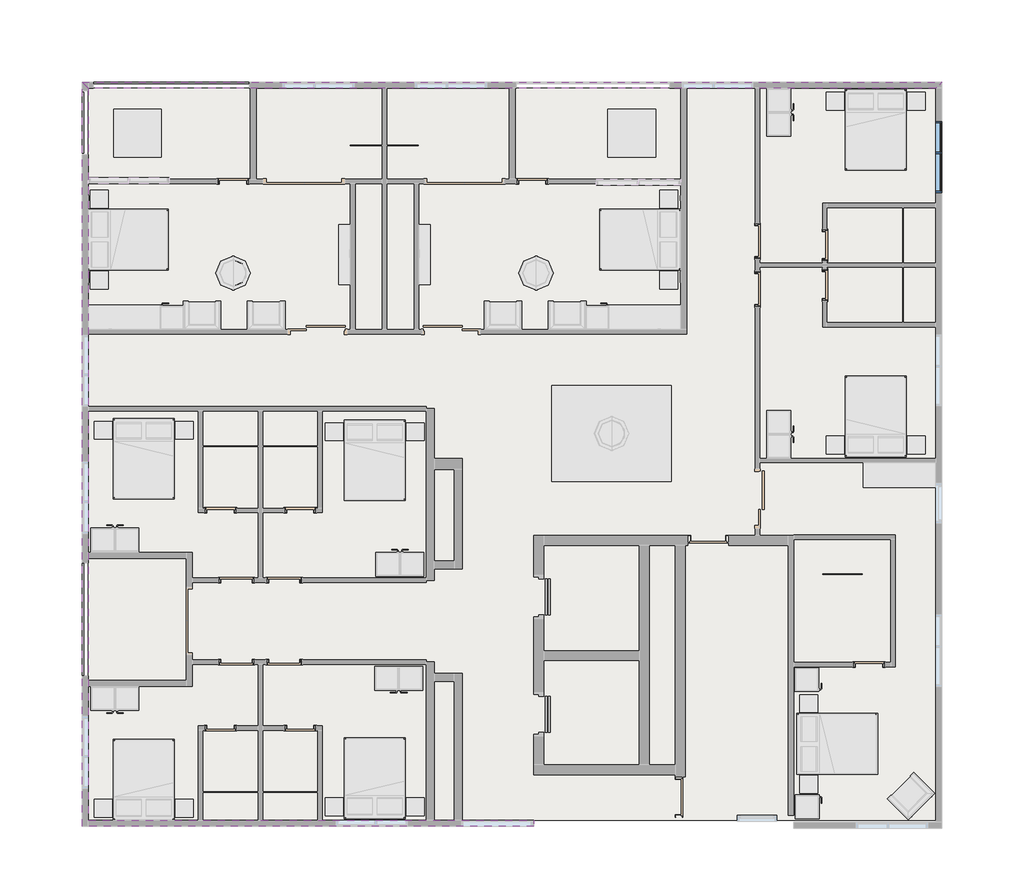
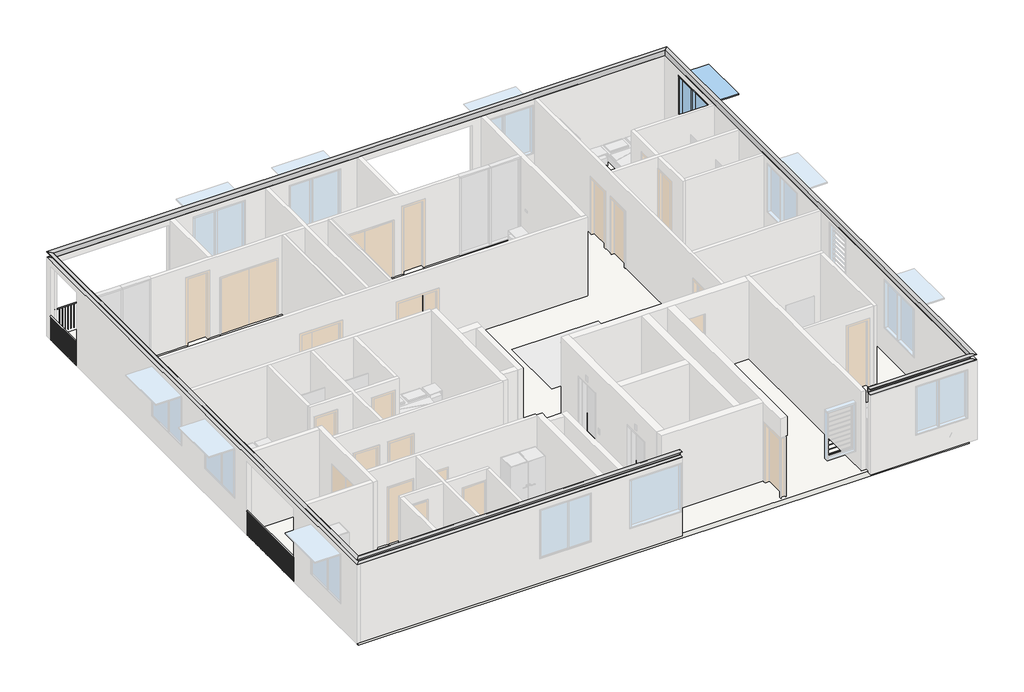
# One storey, part 3 of 4: 3 railings, 2 proxies, 1 slab, 1 window.
"""IFC4 building model written with IfcOpenShell, lengths in millimetres."""

from ifc_helpers import new_model, si_unit, point, frame, frame_2d, origin, place, context, project, spatial, polyline, circle_curve, ellipse_curve, trimmed, segment, composite_curve, outline, extrude, faceted_brep, transform, mapped, element, save
from ifc_brep_helpers import plane_surface, revolved_surface, advanced_brep
from components import window_bottom_hung_window_bottom_hung_09912109

model = new_model("IFC4")

# Units and contexts
model_context = context("Model", 3, world=origin())
ifc_project = project(units=[si_unit("LENGTHUNIT", "METRE", prefix="MILLI")], contexts=[model_context])

# Site, building, storey
site = spatial("IfcSite", under=ifc_project)
building = spatial("IfcBuilding", under=site)
storey = spatial("IfcBuildingStorey", under=building, Name="7階", Elevation=48500.0)

# Proxies
placement = place(None, origin())
element("IfcBuildingElementProxy", 1, Name="Slab Edge_PFC'", ObjectType="Slab Edge_PFC'", at=placement, inside=storey, context=model_context, shape_type="AdvancedBrep", body=[
    advanced_brep(
    [(2519.6057353, 18560.0, 51600.0), (2519.6057353, 18560.0, 51400.0), (2369.6057353, 18710.0, 51400.0), (2369.6057353, 18710.0, 51412.0), (2501.6057353, 18578.0, 51412.0), (2513.6057353, 18566.0, 51424.0), (2513.6057353, 18566.0, 51576.0), (2501.6057353, 18578.0, 51588.0), (2369.6057353, 18710.0, 51588.0), (2369.6057353, 18710.0, 51600.0), (2519.6057353, 189.0898177, 51600.0), (2519.6057353, 189.0898177, 51400.0), (2369.6057353, 39.0898177, 51400.0), (2369.6057353, 39.0898177, 51412.0), (2501.6057353, 171.0898177, 51412.0), (2513.6057353, 183.0898177, 51424.0), (2513.6057353, 183.0898177, 51576.0), (2501.6057353, 171.0898177, 51588.0), (2369.6057353, 39.0898177, 51588.0), (2369.6057353, 39.0898177, 51600.0), (13694.6062665, 189.0898177, 51400.0), (13694.6062665, 189.0898177, 51600.0), (13694.6062665, 39.0898177, 51600.0), (13694.6062665, 39.0898177, 51588.0), (13694.6062665, 171.0898177, 51588.0), (13694.6062665, 183.0898177, 51576.0), (13694.6062665, 183.0898177, 51424.0), (13694.6062665, 171.0898177, 51412.0), (13694.6062665, 39.0898177, 51412.0), (13694.6062665, 39.0898177, 51400.0)],
    [
        (0, 1),
        (1, 2),
        (2, 3),
        (3, 4),
        (4, 5, ellipse_curve(frame((2501.6057353, 18578.0, 51424.0), z_axis=(-0.7071067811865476, -0.7071067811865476, 0.0), x_axis=(0.7071067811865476, -0.7071067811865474, 0.0)), 16.9705627, 12.0)),
        (5, 6),
        (6, 7, ellipse_curve(frame((2501.6057353, 18578.0, 51576.0), z_axis=(-0.7071067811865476, -0.7071067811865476, 0.0), x_axis=(0.7071067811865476, -0.7071067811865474, 0.0)), 16.9705627, 12.0)),
        (7, 8),
        (8, 9),
        (9, 0),
        (0, 10),
        (10, 11),
        (11, 1),
        (11, 12),
        (12, 2),
        (12, 13),
        (13, 3),
        (13, 14),
        (14, 4),
        (14, 15, ellipse_curve(frame((2501.6057353, 171.0898177, 51424.0), z_axis=(0.7071067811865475, -0.7071067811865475, 0.0), x_axis=(-0.7071067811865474, -0.7071067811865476, 0.0)), 16.9705627, 12.0)),
        (15, 5),
        (15, 16),
        (16, 6),
        (16, 17, ellipse_curve(frame((2501.6057353, 171.0898177, 51576.0), z_axis=(0.7071067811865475, -0.7071067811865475, 0.0), x_axis=(-0.7071067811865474, -0.7071067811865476, 0.0)), 16.9705627, 12.0)),
        (17, 7),
        (17, 18),
        (18, 8),
        (18, 19),
        (19, 9),
        (19, 10),
        (20, 21),
        (21, 22),
        (22, 23),
        (23, 24),
        (24, 25, circle_curve(frame((13694.6062665, 171.0898177, 51576.0), z_axis=(-1.0, 0.0, 0.0), x_axis=(0.0, -1.0, 0.0)), 12.0)),
        (25, 26),
        (26, 27, circle_curve(frame((13694.6062665, 171.0898177, 51424.0), z_axis=(-1.0, 0.0, 0.0), x_axis=(0.0, -1.0, 0.0)), 12.0)),
        (27, 28),
        (28, 29),
        (29, 20),
        (10, 21),
        (20, 11),
        (29, 12),
        (28, 13),
        (27, 14),
        (26, 15),
        (25, 16),
        (24, 17),
        (23, 18),
        (22, 19),
    ],
    [
        plane_surface(frame((2519.6057353, 18560.0, 51600.0), z_axis=(0.7071067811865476, 0.7071067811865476, 0.0), x_axis=(-0.7071067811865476, 0.7071067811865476, 0.0))),
        plane_surface(frame((2519.6057353, 18560.0, 51600.0), z_axis=(1.0, 0.0, 0.0), x_axis=(0.0, -1.0, 0.0))),
        plane_surface(frame((2519.6057353, 18560.0, 51400.0), z_axis=(0.0, 0.0, -1.0), x_axis=(0.0, -1.0, 0.0))),
        plane_surface(frame((2369.6057353, 18710.0, 51400.0), z_axis=(-1.0, 0.0, 0.0), x_axis=(0.0, -1.0, 0.0))),
        plane_surface(frame((2369.6057353, 18710.0, 51412.0), z_axis=(0.0, 0.0, 1.0), x_axis=(0.0, -1.0, 0.0))),
        revolved_surface(polyline([(2489.6057353, 159.08981773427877, 51424.0), (2489.6057353, 18589.999999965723, 51424.0)]), (2501.6057353, 18560.0, 51424.0), (0.0, -1.0, 0.0)),
        plane_surface(frame((2513.6057353, 18566.0, 51424.0), z_axis=(-1.0, 0.0, 0.0), x_axis=(0.0, -1.0, 0.0))),
        revolved_surface(polyline([(2489.6057353, 159.08981773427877, 51576.0), (2489.6057353, 18589.999999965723, 51576.0)]), (2501.6057353, 18560.0, 51576.0), (0.0, -1.0, 0.0)),
        plane_surface(frame((2501.6057353, 18578.0, 51588.0), z_axis=(0.0, 0.0, -1.0), x_axis=(0.0, -1.0, 0.0))),
        plane_surface(frame((2369.6057353, 18710.0, 51588.0), z_axis=(-1.0, 0.0, 0.0), x_axis=(0.0, -1.0, 0.0))),
        plane_surface(frame((2369.6057353, 18710.0, 51600.0), z_axis=(0.0, 0.0, 1.0), x_axis=(0.0, -1.0, 0.0))),
        plane_surface(frame((13694.6062665, 189.0898177, 51350.0), z_axis=(1.0, 0.0, 0.0), x_axis=(0.0, 1.0, 0.0))),
        plane_surface(frame((2519.6057353, 189.0898177, 51600.0), z_axis=(0.0, 1.0, 0.0), x_axis=(1.0, 0.0, 0.0))),
        plane_surface(frame((2519.6057353, 189.0898177, 51400.0), z_axis=(0.0, 0.0, -1.0), x_axis=(1.0, 0.0, 0.0))),
        plane_surface(frame((2369.6057353, 39.0898177, 51400.0), z_axis=(0.0, -1.0, 0.0), x_axis=(1.0, 0.0, 0.0))),
        plane_surface(frame((2369.6057353, 39.0898177, 51412.0), z_axis=(0.0, 0.0, 1.0), x_axis=(1.0, 0.0, 0.0))),
        revolved_surface(polyline([(13694.6062665, 159.0898177, 51424.0), (2489.6057353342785, 159.0898177, 51424.0)]), (2519.6057353, 171.0898177, 51424.0), (1.0, 0.0, 0.0)),
        plane_surface(frame((2513.6057353, 183.0898177, 51424.0), z_axis=(0.0, -1.0, 0.0), x_axis=(1.0, 0.0, 0.0))),
        revolved_surface(polyline([(13694.6062665, 159.0898177, 51576.0), (2489.6057353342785, 159.0898177, 51576.0)]), (2519.6057353, 171.0898177, 51576.0), (1.0, 0.0, 0.0)),
        plane_surface(frame((2501.6057353, 171.0898177, 51588.0), z_axis=(0.0, 0.0, -1.0), x_axis=(1.0, 0.0, 0.0))),
        plane_surface(frame((2369.6057353, 39.0898177, 51588.0), z_axis=(0.0, -1.0, 0.0), x_axis=(1.0, 0.0, 0.0))),
        plane_surface(frame((2369.6057353, 39.0898177, 51600.0), z_axis=(0.0, 0.0, 1.0), x_axis=(1.0, 0.0, 0.0))),
    ],
    [
        (0, [[1, 2, 3, 4, 5, 6, 7, 8, 9, 10]]),
        (1, [[-1, 11, 12, 13]]),
        (2, [[-2, -13, 14, 15]]),
        (3, [[-3, -15, 16, 17]]),
        (4, [[-4, -17, 18, 19]]),
        (5, [[-5, -19, 20, 21]]),
        (6, [[-6, -21, 22, 23]]),
        (7, [[-7, -23, 24, 25]]),
        (8, [[-8, -25, 26, 27]]),
        (9, [[-9, -27, 28, 29]]),
        (10, [[-10, -29, 30, -11]]),
        (11, [[31, 32, 33, 34, 35, 36, 37, 38, 39, 40]]),
        (12, [[-12, 41, -31, 42]]),
        (13, [[-14, -42, -40, 43]]),
        (14, [[-16, -43, -39, 44]]),
        (15, [[-18, -44, -38, 45]]),
        (16, [[-20, -45, -37, 46]]),
        (17, [[-22, -46, -36, 47]]),
        (18, [[-24, -47, -35, 48]]),
        (19, [[-26, -48, -34, 49]]),
        (20, [[-28, -49, -33, 50]]),
        (21, [[-30, -50, -32, -41]]),
    ],
),
    advanced_brep(
    [(23783.6171203, 18560.0, 51400.0), (23783.6171203, 18560.0, 51600.0), (23933.6171203, 18710.0, 51600.0), (23933.6171203, 18710.0, 51588.0), (23801.6171203, 18578.0, 51588.0), (23789.6171203, 18566.0, 51576.0), (23789.6171203, 18566.0, 51424.0), (23801.6171203, 18578.0, 51412.0), (23933.6171203, 18710.0, 51412.0), (23933.6171203, 18710.0, 51400.0), (23783.6171203, 189.0898177, 51400.0), (23783.6171203, 189.0898177, 51600.0), (23933.6171203, 39.0898177, 51400.0), (23933.6171203, 39.0898177, 51412.0), (23801.6171203, 171.0898177, 51412.0), (23789.6171203, 183.0898177, 51424.0), (23789.6171203, 183.0898177, 51576.0), (23801.6171203, 171.0898177, 51588.0), (23933.6171203, 39.0898177, 51588.0), (23933.6171203, 39.0898177, 51600.0), (20219.6062665, 189.0898177, 51600.0), (20219.6062665, 189.0898177, 51400.0), (20219.6062665, 39.0898177, 51400.0), (20219.6062665, 39.0898177, 51412.0), (20219.6062665, 171.0898177, 51412.0), (20219.6062665, 183.0898177, 51424.0), (20219.6062665, 183.0898177, 51576.0), (20219.6062665, 171.0898177, 51588.0), (20219.6062665, 39.0898177, 51588.0), (20219.6062665, 39.0898177, 51600.0)],
    [
        (0, 1),
        (1, 2),
        (2, 3),
        (3, 4),
        (4, 5, ellipse_curve(frame((23801.6171203, 18578.0, 51576.0), z_axis=(0.7071067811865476, -0.7071067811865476, 0.0), x_axis=(0.7071067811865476, 0.7071067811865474, 0.0)), 16.9705627, 12.0)),
        (5, 6),
        (6, 7, ellipse_curve(frame((23801.6171203, 18578.0, 51424.0), z_axis=(0.7071067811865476, -0.7071067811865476, 0.0), x_axis=(0.7071067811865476, 0.7071067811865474, 0.0)), 16.9705627, 12.0)),
        (7, 8),
        (8, 9),
        (9, 0),
        (10, 11),
        (11, 1),
        (0, 10),
        (12, 10),
        (9, 12),
        (13, 12),
        (8, 13),
        (14, 13),
        (7, 14),
        (15, 14, ellipse_curve(frame((23801.6171203, 171.0898177, 51424.0), z_axis=(-0.7071067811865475, -0.7071067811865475, 0.0), x_axis=(-0.7071067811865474, 0.7071067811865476, 0.0)), 16.9705627, 12.0)),
        (6, 15),
        (16, 15),
        (5, 16),
        (17, 16, ellipse_curve(frame((23801.6171203, 171.0898177, 51576.0), z_axis=(-0.7071067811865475, -0.7071067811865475, 0.0), x_axis=(-0.7071067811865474, 0.7071067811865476, 0.0)), 16.9705627, 12.0)),
        (4, 17),
        (18, 17),
        (3, 18),
        (19, 18),
        (2, 19),
        (11, 19),
        (20, 21),
        (21, 22),
        (22, 23),
        (23, 24),
        (24, 25, circle_curve(frame((20219.6062665, 171.0898177, 51424.0), z_axis=(1.0, 0.0, 0.0), x_axis=(0.0, -1.0, 0.0)), 12.0)),
        (25, 26),
        (26, 27, circle_curve(frame((20219.6062665, 171.0898177, 51576.0), z_axis=(1.0, 0.0, 0.0), x_axis=(0.0, -1.0, 0.0)), 12.0)),
        (27, 28),
        (28, 29),
        (29, 20),
        (10, 21),
        (20, 11),
        (12, 22),
        (13, 23),
        (14, 24),
        (15, 25),
        (16, 26),
        (17, 27),
        (18, 28),
        (19, 29),
    ],
    [
        plane_surface(frame((23783.6171203, 18560.0, 51600.0), z_axis=(-0.7071067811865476, 0.7071067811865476, 0.0), x_axis=(-0.7071067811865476, -0.7071067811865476, 0.0))),
        plane_surface(frame((23783.6171203, 189.0898177, 51600.0), z_axis=(-1.0, 0.0, 0.0), x_axis=(0.0, 1.0, 0.0))),
        plane_surface(frame((23783.6171203, 189.0898177, 51400.0), z_axis=(0.0, 0.0, -1.0), x_axis=(0.0, 1.0, 0.0))),
        plane_surface(frame((23933.6171203, 39.0898177, 51400.0), z_axis=(1.0, 0.0, 0.0), x_axis=(0.0, 1.0, 0.0))),
        plane_surface(frame((23933.6171203, 39.0898177, 51412.0), z_axis=(0.0, 0.0, 1.0), x_axis=(0.0, 1.0, 0.0))),
        revolved_surface(polyline([(23813.6171203, 18589.999999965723, 51424.0), (23813.6171203, 159.0898177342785, 51424.0)]), (23801.6171203, 189.0898177, 51424.0), (0.0, 1.0, 0.0)),
        plane_surface(frame((23789.6171203, 183.0898177, 51424.0), z_axis=(1.0, 0.0, 0.0), x_axis=(0.0, 1.0, 0.0))),
        revolved_surface(polyline([(23813.6171203, 18589.999999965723, 51576.0), (23813.6171203, 159.0898177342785, 51576.0)]), (23801.6171203, 189.0898177, 51576.0), (0.0, 1.0, 0.0)),
        plane_surface(frame((23801.6171203, 171.0898177, 51588.0), z_axis=(0.0, 0.0, -1.0), x_axis=(0.0, 1.0, 0.0))),
        plane_surface(frame((23933.6171203, 39.0898177, 51588.0), z_axis=(1.0, 0.0, 0.0), x_axis=(0.0, 1.0, 0.0))),
        plane_surface(frame((23933.6171203, 39.0898177, 51600.0), z_axis=(0.0, 0.0, 1.0), x_axis=(0.0, 1.0, 0.0))),
        plane_surface(frame((20219.6062665, 189.0898177, 51350.0), z_axis=(-1.0, 0.0, 0.0), x_axis=(0.0, 1.0, 0.0))),
        plane_surface(frame((20219.6062665, 189.0898177, 51600.0), z_axis=(0.0, 1.0, 0.0), x_axis=(1.0, 0.0, 0.0))),
        plane_surface(frame((20219.6062665, 189.0898177, 51400.0), z_axis=(0.0, 0.0, -1.0), x_axis=(1.0, 0.0, 0.0))),
        plane_surface(frame((20219.6062665, 39.0898177, 51400.0), z_axis=(0.0, -1.0, 0.0), x_axis=(1.0, 0.0, 0.0))),
        plane_surface(frame((20219.6062665, 39.0898177, 51412.0), z_axis=(0.0, 0.0, 1.0), x_axis=(1.0, 0.0, 0.0))),
        revolved_surface(polyline([(23813.617120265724, 159.0898177, 51424.0), (20219.6062665, 159.0898177, 51424.0)]), (20219.6062665, 171.0898177, 51424.0), (1.0, 0.0, 0.0)),
        plane_surface(frame((20219.6062665, 183.0898177, 51424.0), z_axis=(0.0, -1.0, 0.0), x_axis=(1.0, 0.0, 0.0))),
        revolved_surface(polyline([(23813.617120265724, 159.0898177, 51576.0), (20219.6062665, 159.0898177, 51576.0)]), (20219.6062665, 171.0898177, 51576.0), (1.0, 0.0, 0.0)),
        plane_surface(frame((20219.6062665, 171.0898177, 51588.0), z_axis=(0.0, 0.0, -1.0), x_axis=(1.0, 0.0, 0.0))),
        plane_surface(frame((20219.6062665, 39.0898177, 51588.0), z_axis=(0.0, -1.0, 0.0), x_axis=(1.0, 0.0, 0.0))),
        plane_surface(frame((20219.6062665, 39.0898177, 51600.0), z_axis=(0.0, 0.0, 1.0), x_axis=(1.0, 0.0, 0.0))),
    ],
    [
        (0, [[1, 2, 3, 4, 5, 6, 7, 8, 9, 10]]),
        (1, [[11, 12, -1, 13]]),
        (2, [[14, -13, -10, 15]]),
        (3, [[16, -15, -9, 17]]),
        (4, [[18, -17, -8, 19]]),
        (5, [[20, -19, -7, 21]]),
        (6, [[22, -21, -6, 23]]),
        (7, [[24, -23, -5, 25]]),
        (8, [[26, -25, -4, 27]]),
        (9, [[28, -27, -3, 29]]),
        (10, [[30, -29, -2, -12]]),
        (11, [[31, 32, 33, 34, 35, 36, 37, 38, 39, 40]]),
        (12, [[-11, 41, -31, 42]]),
        (13, [[-14, 43, -32, -41]]),
        (14, [[-16, 44, -33, -43]]),
        (15, [[-18, 45, -34, -44]]),
        (16, [[-20, 46, -35, -45]]),
        (17, [[-22, 47, -36, -46]]),
        (18, [[-24, 48, -37, -47]]),
        (19, [[-26, 49, -38, -48]]),
        (20, [[-28, 50, -39, -49]]),
        (21, [[-30, -42, -40, -50]]),
    ],
),
])
element("IfcBuildingElementProxy", 2, Name="Slab Edge_PFC'", ObjectType="Slab Edge_PFC'", at=placement, inside=storey, context=model_context, shape_type="AdvancedBrep", body=[
    advanced_brep(
    [(23783.6171203, 18560.0, 51600.0), (23783.6171203, 18560.0, 51400.0), (23933.6171203, 18710.0, 51400.0), (23933.6171203, 18710.0, 51412.0), (23801.6171203, 18578.0, 51412.0), (23789.6171203, 18566.0, 51424.0), (23789.6171203, 18566.0, 51576.0), (23801.6171203, 18578.0, 51588.0), (23933.6171203, 18710.0, 51588.0), (23933.6171203, 18710.0, 51600.0), (2519.6057353, 18560.0, 51600.0), (2369.6057353, 18710.0, 51600.0), (2369.6057353, 18710.0, 51588.0), (2501.6057353, 18578.0, 51588.0), (2513.6057353, 18566.0, 51576.0), (2513.6057353, 18566.0, 51424.0), (2501.6057353, 18578.0, 51412.0), (2369.6057353, 18710.0, 51412.0), (2369.6057353, 18710.0, 51400.0), (2519.6057353, 18560.0, 51400.0)],
    [
        (0, 1),
        (1, 2),
        (2, 3),
        (3, 4),
        (4, 5, ellipse_curve(frame((23801.6171203, 18578.0, 51424.0), z_axis=(-0.7071067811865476, 0.7071067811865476, 0.0), x_axis=(-0.7071067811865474, -0.7071067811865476, 0.0)), 16.9705627, 12.0)),
        (5, 6),
        (6, 7, ellipse_curve(frame((23801.6171203, 18578.0, 51576.0), z_axis=(-0.7071067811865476, 0.7071067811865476, 0.0), x_axis=(-0.7071067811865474, -0.7071067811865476, 0.0)), 16.9705627, 12.0)),
        (7, 8),
        (8, 9),
        (9, 0),
        (10, 11),
        (11, 12),
        (12, 13),
        (13, 14, ellipse_curve(frame((2501.6057353, 18578.0, 51576.0), z_axis=(0.7071067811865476, 0.7071067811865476, 0.0), x_axis=(-0.7071067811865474, 0.7071067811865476, 0.0)), 16.9705627, 12.0)),
        (14, 15),
        (15, 16, ellipse_curve(frame((2501.6057353, 18578.0, 51424.0), z_axis=(0.7071067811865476, 0.7071067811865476, 0.0), x_axis=(-0.7071067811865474, 0.7071067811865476, 0.0)), 16.9705627, 12.0)),
        (16, 17),
        (17, 18),
        (18, 19),
        (19, 10),
        (0, 10),
        (19, 1),
        (18, 2),
        (17, 3),
        (16, 4),
        (15, 5),
        (14, 6),
        (13, 7),
        (12, 8),
        (11, 9),
    ],
    [
        plane_surface(frame((23783.6171203, 18560.0, 51600.0), z_axis=(0.7071067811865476, -0.7071067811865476, 0.0), x_axis=(0.7071067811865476, 0.7071067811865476, 0.0))),
        plane_surface(frame((2519.6057353, 18560.0, 51600.0), z_axis=(-0.7071067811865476, -0.7071067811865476, 0.0), x_axis=(0.7071067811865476, -0.7071067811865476, 0.0))),
        plane_surface(frame((23783.6171203, 18560.0, 51600.0), z_axis=(0.0, -1.0, 0.0), x_axis=(-1.0, 0.0, 0.0))),
        plane_surface(frame((23783.6171203, 18560.0, 51400.0), z_axis=(0.0, 0.0, -1.0), x_axis=(-1.0, 0.0, 0.0))),
        plane_surface(frame((23933.6171203, 18710.0, 51400.0), z_axis=(0.0, 1.0, 0.0), x_axis=(-1.0, 0.0, 0.0))),
        plane_surface(frame((23933.6171203, 18710.0, 51412.0), z_axis=(0.0, 0.0, 1.0), x_axis=(-1.0, 0.0, 0.0))),
        revolved_surface(polyline([(2489.6057353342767, 18590.0, 51424.0), (23813.617120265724, 18590.0, 51424.0)]), (23783.6171203, 18578.0, 51424.0), (-1.0, 0.0, 0.0)),
        plane_surface(frame((23789.6171203, 18566.0, 51424.0), z_axis=(0.0, 1.0, 0.0), x_axis=(-1.0, 0.0, 0.0))),
        revolved_surface(polyline([(2489.6057353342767, 18590.0, 51576.0), (23813.617120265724, 18590.0, 51576.0)]), (23783.6171203, 18578.0, 51576.0), (-1.0, 0.0, 0.0)),
        plane_surface(frame((23801.6171203, 18578.0, 51588.0), z_axis=(0.0, 0.0, -1.0), x_axis=(-1.0, 0.0, 0.0))),
        plane_surface(frame((23933.6171203, 18710.0, 51588.0), z_axis=(0.0, 1.0, 0.0), x_axis=(-1.0, 0.0, 0.0))),
        plane_surface(frame((23933.6171203, 18710.0, 51600.0), z_axis=(0.0, 0.0, 1.0), x_axis=(-1.0, 0.0, 0.0))),
    ],
    [
        (0, [[1, 2, 3, 4, 5, 6, 7, 8, 9, 10]]),
        (1, [[11, 12, 13, 14, 15, 16, 17, 18, 19, 20]]),
        (2, [[-1, 21, -20, 22]]),
        (3, [[-2, -22, -19, 23]]),
        (4, [[-3, -23, -18, 24]]),
        (5, [[-4, -24, -17, 25]]),
        (6, [[-5, -25, -16, 26]]),
        (7, [[-6, -26, -15, 27]]),
        (8, [[-7, -27, -14, 28]]),
        (9, [[-8, -28, -13, 29]]),
        (10, [[-9, -29, -12, 30]]),
        (11, [[-10, -30, -11, -21]]),
    ],
),
])

# Railings
element("IfcRailing", 3, ObjectType="900mm", at=placement, inside=storey, context=model_context, shape_type="SweptSolid", body=[
    extrude(outline(composite_curve([segment(trimmed(circle_curve(frame_2d((18700.0, 49380.0)), 20.0), [point((18680.0, 49380.0))], [point((18720.0, 49380.0))], False, "CARTESIAN"), True, "CONTINUOUS"), segment(trimmed(circle_curve(frame_2d((18700.0, 49380.0)), 20.0), [point((18720.0, 49380.0))], [point((18680.0, 49380.0))], False, "CARTESIAN"), True, "CONTINUOUS")], self_intersect=False)), frame((2614.6057353, 0.0, 0.0), z_axis=(1.0, 0.0, 0.0), x_axis=(0.0, 1.0, 0.0)), (0.0, 0.0, 1.0), 3940.0588639),
    extrude(outline(polyline([(6509.6057353, 18695.0), (6509.6057353, 18705.0), (6519.6057353, 18705.0), (6519.6057353, 18695.0), (6509.6057353, 18695.0)])), frame((0.0, 0.0, 48500.0), z_axis=(0.0, 0.0, 1.0), x_axis=(1.0, 0.0, 0.0)), (0.0, 0.0, 1.0), 860.0),
    extrude(outline(polyline([(6409.6057353, 18695.0), (6409.6057353, 18705.0), (6419.6057353, 18705.0), (6419.6057353, 18695.0), (6409.6057353, 18695.0)])), frame((0.0, 0.0, 48500.0), z_axis=(0.0, 0.0, 1.0), x_axis=(1.0, 0.0, 0.0)), (0.0, 0.0, 1.0), 860.0),
    extrude(outline(polyline([(6309.6057353, 18695.0), (6309.6057353, 18705.0), (6319.6057353, 18705.0), (6319.6057353, 18695.0), (6309.6057353, 18695.0)])), frame((0.0, 0.0, 48500.0), z_axis=(0.0, 0.0, 1.0), x_axis=(1.0, 0.0, 0.0)), (0.0, 0.0, 1.0), 860.0),
    extrude(outline(polyline([(6209.6057353, 18695.0), (6209.6057353, 18705.0), (6219.6057353, 18705.0), (6219.6057353, 18695.0), (6209.6057353, 18695.0)])), frame((0.0, 0.0, 48500.0), z_axis=(0.0, 0.0, 1.0), x_axis=(1.0, 0.0, 0.0)), (0.0, 0.0, 1.0), 860.0),
    extrude(outline(polyline([(6109.6057353, 18695.0), (6109.6057353, 18705.0), (6119.6057353, 18705.0), (6119.6057353, 18695.0), (6109.6057353, 18695.0)])), frame((0.0, 0.0, 48500.0), z_axis=(0.0, 0.0, 1.0), x_axis=(1.0, 0.0, 0.0)), (0.0, 0.0, 1.0), 860.0),
    extrude(outline(polyline([(6009.6057353, 18695.0), (6009.6057353, 18705.0), (6019.6057353, 18705.0), (6019.6057353, 18695.0), (6009.6057353, 18695.0)])), frame((0.0, 0.0, 48500.0), z_axis=(0.0, 0.0, 1.0), x_axis=(1.0, 0.0, 0.0)), (0.0, 0.0, 1.0), 860.0),
    extrude(outline(polyline([(5909.6057353, 18695.0), (5909.6057353, 18705.0), (5919.6057353, 18705.0), (5919.6057353, 18695.0), (5909.6057353, 18695.0)])), frame((0.0, 0.0, 48500.0), z_axis=(0.0, 0.0, 1.0), x_axis=(1.0, 0.0, 0.0)), (0.0, 0.0, 1.0), 860.0),
    extrude(outline(polyline([(5809.6057353, 18695.0), (5809.6057353, 18705.0), (5819.6057353, 18705.0), (5819.6057353, 18695.0), (5809.6057353, 18695.0)])), frame((0.0, 0.0, 48500.0), z_axis=(0.0, 0.0, 1.0), x_axis=(1.0, 0.0, 0.0)), (0.0, 0.0, 1.0), 860.0),
    extrude(outline(polyline([(5709.6057353, 18695.0), (5709.6057353, 18705.0), (5719.6057353, 18705.0), (5719.6057353, 18695.0), (5709.6057353, 18695.0)])), frame((0.0, 0.0, 48500.0), z_axis=(0.0, 0.0, 1.0), x_axis=(1.0, 0.0, 0.0)), (0.0, 0.0, 1.0), 860.0),
    extrude(outline(polyline([(5609.6057353, 18695.0), (5609.6057353, 18705.0), (5619.6057353, 18705.0), (5619.6057353, 18695.0), (5609.6057353, 18695.0)])), frame((0.0, 0.0, 48500.0), z_axis=(0.0, 0.0, 1.0), x_axis=(1.0, 0.0, 0.0)), (0.0, 0.0, 1.0), 860.0),
    extrude(outline(polyline([(5509.6057353, 18695.0), (5509.6057353, 18705.0), (5519.6057353, 18705.0), (5519.6057353, 18695.0), (5509.6057353, 18695.0)])), frame((0.0, 0.0, 48500.0), z_axis=(0.0, 0.0, 1.0), x_axis=(1.0, 0.0, 0.0)), (0.0, 0.0, 1.0), 860.0),
    extrude(outline(polyline([(5409.6057353, 18695.0), (5409.6057353, 18705.0), (5419.6057353, 18705.0), (5419.6057353, 18695.0), (5409.6057353, 18695.0)])), frame((0.0, 0.0, 48500.0), z_axis=(0.0, 0.0, 1.0), x_axis=(1.0, 0.0, 0.0)), (0.0, 0.0, 1.0), 860.0),
    extrude(outline(polyline([(5309.6057353, 18695.0), (5309.6057353, 18705.0), (5319.6057353, 18705.0), (5319.6057353, 18695.0), (5309.6057353, 18695.0)])), frame((0.0, 0.0, 48500.0), z_axis=(0.0, 0.0, 1.0), x_axis=(1.0, 0.0, 0.0)), (0.0, 0.0, 1.0), 860.0),
    extrude(outline(polyline([(5209.6057353, 18695.0), (5209.6057353, 18705.0), (5219.6057353, 18705.0), (5219.6057353, 18695.0), (5209.6057353, 18695.0)])), frame((0.0, 0.0, 48500.0), z_axis=(0.0, 0.0, 1.0), x_axis=(1.0, 0.0, 0.0)), (0.0, 0.0, 1.0), 860.0),
    extrude(outline(polyline([(5109.6057353, 18695.0), (5109.6057353, 18705.0), (5119.6057353, 18705.0), (5119.6057353, 18695.0), (5109.6057353, 18695.0)])), frame((0.0, 0.0, 48500.0), z_axis=(0.0, 0.0, 1.0), x_axis=(1.0, 0.0, 0.0)), (0.0, 0.0, 1.0), 860.0),
    extrude(outline(polyline([(5009.6057353, 18695.0), (5009.6057353, 18705.0), (5019.6057353, 18705.0), (5019.6057353, 18695.0), (5009.6057353, 18695.0)])), frame((0.0, 0.0, 48500.0), z_axis=(0.0, 0.0, 1.0), x_axis=(1.0, 0.0, 0.0)), (0.0, 0.0, 1.0), 860.0),
    extrude(outline(polyline([(4909.6057353, 18695.0), (4909.6057353, 18705.0), (4919.6057353, 18705.0), (4919.6057353, 18695.0), (4909.6057353, 18695.0)])), frame((0.0, 0.0, 48500.0), z_axis=(0.0, 0.0, 1.0), x_axis=(1.0, 0.0, 0.0)), (0.0, 0.0, 1.0), 860.0),
    extrude(outline(polyline([(4809.6057353, 18695.0), (4809.6057353, 18705.0), (4819.6057353, 18705.0), (4819.6057353, 18695.0), (4809.6057353, 18695.0)])), frame((0.0, 0.0, 48500.0), z_axis=(0.0, 0.0, 1.0), x_axis=(1.0, 0.0, 0.0)), (0.0, 0.0, 1.0), 860.0),
    extrude(outline(polyline([(4709.6057353, 18695.0), (4709.6057353, 18705.0), (4719.6057353, 18705.0), (4719.6057353, 18695.0), (4709.6057353, 18695.0)])), frame((0.0, 0.0, 48500.0), z_axis=(0.0, 0.0, 1.0), x_axis=(1.0, 0.0, 0.0)), (0.0, 0.0, 1.0), 860.0),
    extrude(outline(polyline([(4609.6057353, 18695.0), (4609.6057353, 18705.0), (4619.6057353, 18705.0), (4619.6057353, 18695.0), (4609.6057353, 18695.0)])), frame((0.0, 0.0, 48500.0), z_axis=(0.0, 0.0, 1.0), x_axis=(1.0, 0.0, 0.0)), (0.0, 0.0, 1.0), 860.0),
    extrude(outline(polyline([(4509.6057353, 18695.0), (4509.6057353, 18705.0), (4519.6057353, 18705.0), (4519.6057353, 18695.0), (4509.6057353, 18695.0)])), frame((0.0, 0.0, 48500.0), z_axis=(0.0, 0.0, 1.0), x_axis=(1.0, 0.0, 0.0)), (0.0, 0.0, 1.0), 860.0),
    extrude(outline(polyline([(4409.6057353, 18695.0), (4409.6057353, 18705.0), (4419.6057353, 18705.0), (4419.6057353, 18695.0), (4409.6057353, 18695.0)])), frame((0.0, 0.0, 48500.0), z_axis=(0.0, 0.0, 1.0), x_axis=(1.0, 0.0, 0.0)), (0.0, 0.0, 1.0), 860.0),
    extrude(outline(polyline([(4309.6057353, 18695.0), (4309.6057353, 18705.0), (4319.6057353, 18705.0), (4319.6057353, 18695.0), (4309.6057353, 18695.0)])), frame((0.0, 0.0, 48500.0), z_axis=(0.0, 0.0, 1.0), x_axis=(1.0, 0.0, 0.0)), (0.0, 0.0, 1.0), 860.0),
    extrude(outline(polyline([(4209.6057353, 18695.0), (4209.6057353, 18705.0), (4219.6057353, 18705.0), (4219.6057353, 18695.0), (4209.6057353, 18695.0)])), frame((0.0, 0.0, 48500.0), z_axis=(0.0, 0.0, 1.0), x_axis=(1.0, 0.0, 0.0)), (0.0, 0.0, 1.0), 860.0),
    extrude(outline(polyline([(4109.6057353, 18695.0), (4109.6057353, 18705.0), (4119.6057353, 18705.0), (4119.6057353, 18695.0), (4109.6057353, 18695.0)])), frame((0.0, 0.0, 48500.0), z_axis=(0.0, 0.0, 1.0), x_axis=(1.0, 0.0, 0.0)), (0.0, 0.0, 1.0), 860.0),
    extrude(outline(polyline([(4009.6057353, 18695.0), (4009.6057353, 18705.0), (4019.6057353, 18705.0), (4019.6057353, 18695.0), (4009.6057353, 18695.0)])), frame((0.0, 0.0, 48500.0), z_axis=(0.0, 0.0, 1.0), x_axis=(1.0, 0.0, 0.0)), (0.0, 0.0, 1.0), 860.0),
    extrude(outline(polyline([(3909.6057353, 18695.0), (3909.6057353, 18705.0), (3919.6057353, 18705.0), (3919.6057353, 18695.0), (3909.6057353, 18695.0)])), frame((0.0, 0.0, 48500.0), z_axis=(0.0, 0.0, 1.0), x_axis=(1.0, 0.0, 0.0)), (0.0, 0.0, 1.0), 860.0),
    extrude(outline(polyline([(3809.6057353, 18695.0), (3809.6057353, 18705.0), (3819.6057353, 18705.0), (3819.6057353, 18695.0), (3809.6057353, 18695.0)])), frame((0.0, 0.0, 48500.0), z_axis=(0.0, 0.0, 1.0), x_axis=(1.0, 0.0, 0.0)), (0.0, 0.0, 1.0), 860.0),
    extrude(outline(polyline([(3709.6057353, 18695.0), (3709.6057353, 18705.0), (3719.6057353, 18705.0), (3719.6057353, 18695.0), (3709.6057353, 18695.0)])), frame((0.0, 0.0, 48500.0), z_axis=(0.0, 0.0, 1.0), x_axis=(1.0, 0.0, 0.0)), (0.0, 0.0, 1.0), 860.0),
    extrude(outline(polyline([(3609.6057353, 18695.0), (3609.6057353, 18705.0), (3619.6057353, 18705.0), (3619.6057353, 18695.0), (3609.6057353, 18695.0)])), frame((0.0, 0.0, 48500.0), z_axis=(0.0, 0.0, 1.0), x_axis=(1.0, 0.0, 0.0)), (0.0, 0.0, 1.0), 860.0),
    extrude(outline(polyline([(3509.6057353, 18695.0), (3509.6057353, 18705.0), (3519.6057353, 18705.0), (3519.6057353, 18695.0), (3509.6057353, 18695.0)])), frame((0.0, 0.0, 48500.0), z_axis=(0.0, 0.0, 1.0), x_axis=(1.0, 0.0, 0.0)), (0.0, 0.0, 1.0), 860.0),
    extrude(outline(polyline([(3409.6057353, 18695.0), (3409.6057353, 18705.0), (3419.6057353, 18705.0), (3419.6057353, 18695.0), (3409.6057353, 18695.0)])), frame((0.0, 0.0, 48500.0), z_axis=(0.0, 0.0, 1.0), x_axis=(1.0, 0.0, 0.0)), (0.0, 0.0, 1.0), 860.0),
    extrude(outline(polyline([(3309.6057353, 18695.0), (3309.6057353, 18705.0), (3319.6057353, 18705.0), (3319.6057353, 18695.0), (3309.6057353, 18695.0)])), frame((0.0, 0.0, 48500.0), z_axis=(0.0, 0.0, 1.0), x_axis=(1.0, 0.0, 0.0)), (0.0, 0.0, 1.0), 860.0),
    extrude(outline(polyline([(3209.6057353, 18695.0), (3209.6057353, 18705.0), (3219.6057353, 18705.0), (3219.6057353, 18695.0), (3209.6057353, 18695.0)])), frame((0.0, 0.0, 48500.0), z_axis=(0.0, 0.0, 1.0), x_axis=(1.0, 0.0, 0.0)), (0.0, 0.0, 1.0), 860.0),
    extrude(outline(polyline([(3109.6057353, 18695.0), (3109.6057353, 18705.0), (3119.6057353, 18705.0), (3119.6057353, 18695.0), (3109.6057353, 18695.0)])), frame((0.0, 0.0, 48500.0), z_axis=(0.0, 0.0, 1.0), x_axis=(1.0, 0.0, 0.0)), (0.0, 0.0, 1.0), 860.0),
    extrude(outline(polyline([(3009.6057353, 18695.0), (3009.6057353, 18705.0), (3019.6057353, 18705.0), (3019.6057353, 18695.0), (3009.6057353, 18695.0)])), frame((0.0, 0.0, 48500.0), z_axis=(0.0, 0.0, 1.0), x_axis=(1.0, 0.0, 0.0)), (0.0, 0.0, 1.0), 860.0),
    extrude(outline(polyline([(2909.6057353, 18695.0), (2909.6057353, 18705.0), (2919.6057353, 18705.0), (2919.6057353, 18695.0), (2909.6057353, 18695.0)])), frame((0.0, 0.0, 48500.0), z_axis=(0.0, 0.0, 1.0), x_axis=(1.0, 0.0, 0.0)), (0.0, 0.0, 1.0), 860.0),
    extrude(outline(polyline([(2809.6057353, 18695.0), (2809.6057353, 18705.0), (2819.6057353, 18705.0), (2819.6057353, 18695.0), (2809.6057353, 18695.0)])), frame((0.0, 0.0, 48500.0), z_axis=(0.0, 0.0, 1.0), x_axis=(1.0, 0.0, 0.0)), (0.0, 0.0, 1.0), 860.0),
    extrude(outline(polyline([(2709.6057353, 18695.0), (2709.6057353, 18705.0), (2719.6057353, 18705.0), (2719.6057353, 18695.0), (2709.6057353, 18695.0)])), frame((0.0, 0.0, 48500.0), z_axis=(0.0, 0.0, 1.0), x_axis=(1.0, 0.0, 0.0)), (0.0, 0.0, 1.0), 860.0),
    extrude(outline(polyline([(6539.6645991, 18695.0), (6539.6645991, 18705.0), (6549.6645991, 18705.0), (6549.6645991, 18695.0), (6539.6645991, 18695.0)])), frame((0.0, 0.0, 48500.0), z_axis=(0.0, 0.0, 1.0), x_axis=(1.0, 0.0, 0.0)), (0.0, 0.0, 1.0), 860.0),
    extrude(outline(polyline([(2619.6057353, 18695.0), (2619.6057353, 18705.0), (2629.6057353, 18705.0), (2629.6057353, 18695.0), (2619.6057353, 18695.0)])), frame((0.0, 0.0, 48500.0), z_axis=(0.0, 0.0, 1.0), x_axis=(1.0, 0.0, 0.0)), (0.0, 0.0, 1.0), 860.0),
])
element("IfcRailing", 4, ObjectType="900mm", at=placement, inside=storey, context=model_context, shape_type="SweptSolid", body=[
    extrude(outline(composite_curve([segment(trimmed(circle_curve(frame_2d((49380.0, 2379.6057353)), 20.0), [point((49380.0, 2399.6057353))], [point((49380.0, 2359.6057353))], False, "CARTESIAN"), True, "CONTINUOUS"), segment(trimmed(circle_curve(frame_2d((49380.0, 2379.6057353)), 20.0), [point((49380.0, 2359.6057353))], [point((49380.0, 2399.6057353))], False, "CARTESIAN"), True, "CONTINUOUS")], self_intersect=False)), frame((0.0, 3816.2680774, 0.0), z_axis=(0.0, 1.0, 0.0), x_axis=(0.0, 0.0, 1.0)), (0.0, 0.0, 1.0), 2834.048622),
    extrude(outline(polyline([(2384.6057353, 6611.2680774), (2374.6057353, 6611.2680774), (2374.6057353, 6621.2680774), (2384.6057353, 6621.2680774), (2384.6057353, 6611.2680774)])), frame((0.0, 0.0, 48500.0), z_axis=(0.0, 0.0, 1.0), x_axis=(1.0, 0.0, 0.0)), (0.0, 0.0, 1.0), 860.0),
    extrude(outline(polyline([(2384.6057353, 6511.2680774), (2374.6057353, 6511.2680774), (2374.6057353, 6521.2680774), (2384.6057353, 6521.2680774), (2384.6057353, 6511.2680774)])), frame((0.0, 0.0, 48500.0), z_axis=(0.0, 0.0, 1.0), x_axis=(1.0, 0.0, 0.0)), (0.0, 0.0, 1.0), 860.0),
    extrude(outline(polyline([(2384.6057353, 6411.2680774), (2374.6057353, 6411.2680774), (2374.6057353, 6421.2680774), (2384.6057353, 6421.2680774), (2384.6057353, 6411.2680774)])), frame((0.0, 0.0, 48500.0), z_axis=(0.0, 0.0, 1.0), x_axis=(1.0, 0.0, 0.0)), (0.0, 0.0, 1.0), 860.0),
    extrude(outline(polyline([(2384.6057353, 6311.2680774), (2374.6057353, 6311.2680774), (2374.6057353, 6321.2680774), (2384.6057353, 6321.2680774), (2384.6057353, 6311.2680774)])), frame((0.0, 0.0, 48500.0), z_axis=(0.0, 0.0, 1.0), x_axis=(1.0, 0.0, 0.0)), (0.0, 0.0, 1.0), 860.0),
    extrude(outline(polyline([(2384.6057353, 6211.2680774), (2374.6057353, 6211.2680774), (2374.6057353, 6221.2680774), (2384.6057353, 6221.2680774), (2384.6057353, 6211.2680774)])), frame((0.0, 0.0, 48500.0), z_axis=(0.0, 0.0, 1.0), x_axis=(1.0, 0.0, 0.0)), (0.0, 0.0, 1.0), 860.0),
    extrude(outline(polyline([(2384.6057353, 6111.2680774), (2374.6057353, 6111.2680774), (2374.6057353, 6121.2680774), (2384.6057353, 6121.2680774), (2384.6057353, 6111.2680774)])), frame((0.0, 0.0, 48500.0), z_axis=(0.0, 0.0, 1.0), x_axis=(1.0, 0.0, 0.0)), (0.0, 0.0, 1.0), 860.0),
    extrude(outline(polyline([(2384.6057353, 6011.2680774), (2374.6057353, 6011.2680774), (2374.6057353, 6021.2680774), (2384.6057353, 6021.2680774), (2384.6057353, 6011.2680774)])), frame((0.0, 0.0, 48500.0), z_axis=(0.0, 0.0, 1.0), x_axis=(1.0, 0.0, 0.0)), (0.0, 0.0, 1.0), 860.0),
    extrude(outline(polyline([(2384.6057353, 5911.2680774), (2374.6057353, 5911.2680774), (2374.6057353, 5921.2680774), (2384.6057353, 5921.2680774), (2384.6057353, 5911.2680774)])), frame((0.0, 0.0, 48500.0), z_axis=(0.0, 0.0, 1.0), x_axis=(1.0, 0.0, 0.0)), (0.0, 0.0, 1.0), 860.0),
    extrude(outline(polyline([(2384.6057353, 5811.2680774), (2374.6057353, 5811.2680774), (2374.6057353, 5821.2680774), (2384.6057353, 5821.2680774), (2384.6057353, 5811.2680774)])), frame((0.0, 0.0, 48500.0), z_axis=(0.0, 0.0, 1.0), x_axis=(1.0, 0.0, 0.0)), (0.0, 0.0, 1.0), 860.0),
    extrude(outline(polyline([(2384.6057353, 5711.2680774), (2374.6057353, 5711.2680774), (2374.6057353, 5721.2680774), (2384.6057353, 5721.2680774), (2384.6057353, 5711.2680774)])), frame((0.0, 0.0, 48500.0), z_axis=(0.0, 0.0, 1.0), x_axis=(1.0, 0.0, 0.0)), (0.0, 0.0, 1.0), 860.0),
    extrude(outline(polyline([(2384.6057353, 5611.2680774), (2374.6057353, 5611.2680774), (2374.6057353, 5621.2680774), (2384.6057353, 5621.2680774), (2384.6057353, 5611.2680774)])), frame((0.0, 0.0, 48500.0), z_axis=(0.0, 0.0, 1.0), x_axis=(1.0, 0.0, 0.0)), (0.0, 0.0, 1.0), 860.0),
    extrude(outline(polyline([(2384.6057353, 5511.2680774), (2374.6057353, 5511.2680774), (2374.6057353, 5521.2680774), (2384.6057353, 5521.2680774), (2384.6057353, 5511.2680774)])), frame((0.0, 0.0, 48500.0), z_axis=(0.0, 0.0, 1.0), x_axis=(1.0, 0.0, 0.0)), (0.0, 0.0, 1.0), 860.0),
    extrude(outline(polyline([(2384.6057353, 5411.2680774), (2374.6057353, 5411.2680774), (2374.6057353, 5421.2680774), (2384.6057353, 5421.2680774), (2384.6057353, 5411.2680774)])), frame((0.0, 0.0, 48500.0), z_axis=(0.0, 0.0, 1.0), x_axis=(1.0, 0.0, 0.0)), (0.0, 0.0, 1.0), 860.0),
    extrude(outline(polyline([(2384.6057353, 5311.2680774), (2374.6057353, 5311.2680774), (2374.6057353, 5321.2680774), (2384.6057353, 5321.2680774), (2384.6057353, 5311.2680774)])), frame((0.0, 0.0, 48500.0), z_axis=(0.0, 0.0, 1.0), x_axis=(1.0, 0.0, 0.0)), (0.0, 0.0, 1.0), 860.0),
    extrude(outline(polyline([(2384.6057353, 5211.2680774), (2374.6057353, 5211.2680774), (2374.6057353, 5221.2680774), (2384.6057353, 5221.2680774), (2384.6057353, 5211.2680774)])), frame((0.0, 0.0, 48500.0), z_axis=(0.0, 0.0, 1.0), x_axis=(1.0, 0.0, 0.0)), (0.0, 0.0, 1.0), 860.0),
    extrude(outline(polyline([(2384.6057353, 5111.2680774), (2374.6057353, 5111.2680774), (2374.6057353, 5121.2680774), (2384.6057353, 5121.2680774), (2384.6057353, 5111.2680774)])), frame((0.0, 0.0, 48500.0), z_axis=(0.0, 0.0, 1.0), x_axis=(1.0, 0.0, 0.0)), (0.0, 0.0, 1.0), 860.0),
    extrude(outline(polyline([(2384.6057353, 5011.2680774), (2374.6057353, 5011.2680774), (2374.6057353, 5021.2680774), (2384.6057353, 5021.2680774), (2384.6057353, 5011.2680774)])), frame((0.0, 0.0, 48500.0), z_axis=(0.0, 0.0, 1.0), x_axis=(1.0, 0.0, 0.0)), (0.0, 0.0, 1.0), 860.0),
    extrude(outline(polyline([(2384.6057353, 4911.2680774), (2374.6057353, 4911.2680774), (2374.6057353, 4921.2680774), (2384.6057353, 4921.2680774), (2384.6057353, 4911.2680774)])), frame((0.0, 0.0, 48500.0), z_axis=(0.0, 0.0, 1.0), x_axis=(1.0, 0.0, 0.0)), (0.0, 0.0, 1.0), 860.0),
    extrude(outline(polyline([(2384.6057353, 4811.2680774), (2374.6057353, 4811.2680774), (2374.6057353, 4821.2680774), (2384.6057353, 4821.2680774), (2384.6057353, 4811.2680774)])), frame((0.0, 0.0, 48500.0), z_axis=(0.0, 0.0, 1.0), x_axis=(1.0, 0.0, 0.0)), (0.0, 0.0, 1.0), 860.0),
    extrude(outline(polyline([(2384.6057353, 4711.2680774), (2374.6057353, 4711.2680774), (2374.6057353, 4721.2680774), (2384.6057353, 4721.2680774), (2384.6057353, 4711.2680774)])), frame((0.0, 0.0, 48500.0), z_axis=(0.0, 0.0, 1.0), x_axis=(1.0, 0.0, 0.0)), (0.0, 0.0, 1.0), 860.0),
    extrude(outline(polyline([(2384.6057353, 4611.2680774), (2374.6057353, 4611.2680774), (2374.6057353, 4621.2680774), (2384.6057353, 4621.2680774), (2384.6057353, 4611.2680774)])), frame((0.0, 0.0, 48500.0), z_axis=(0.0, 0.0, 1.0), x_axis=(1.0, 0.0, 0.0)), (0.0, 0.0, 1.0), 860.0),
    extrude(outline(polyline([(2384.6057353, 4511.2680774), (2374.6057353, 4511.2680774), (2374.6057353, 4521.2680774), (2384.6057353, 4521.2680774), (2384.6057353, 4511.2680774)])), frame((0.0, 0.0, 48500.0), z_axis=(0.0, 0.0, 1.0), x_axis=(1.0, 0.0, 0.0)), (0.0, 0.0, 1.0), 860.0),
    extrude(outline(polyline([(2384.6057353, 4411.2680774), (2374.6057353, 4411.2680774), (2374.6057353, 4421.2680774), (2384.6057353, 4421.2680774), (2384.6057353, 4411.2680774)])), frame((0.0, 0.0, 48500.0), z_axis=(0.0, 0.0, 1.0), x_axis=(1.0, 0.0, 0.0)), (0.0, 0.0, 1.0), 860.0),
    extrude(outline(polyline([(2384.6057353, 4311.2680774), (2374.6057353, 4311.2680774), (2374.6057353, 4321.2680774), (2384.6057353, 4321.2680774), (2384.6057353, 4311.2680774)])), frame((0.0, 0.0, 48500.0), z_axis=(0.0, 0.0, 1.0), x_axis=(1.0, 0.0, 0.0)), (0.0, 0.0, 1.0), 860.0),
    extrude(outline(polyline([(2384.6057353, 4211.2680774), (2374.6057353, 4211.2680774), (2374.6057353, 4221.2680774), (2384.6057353, 4221.2680774), (2384.6057353, 4211.2680774)])), frame((0.0, 0.0, 48500.0), z_axis=(0.0, 0.0, 1.0), x_axis=(1.0, 0.0, 0.0)), (0.0, 0.0, 1.0), 860.0),
    extrude(outline(polyline([(2384.6057353, 4111.2680774), (2374.6057353, 4111.2680774), (2374.6057353, 4121.2680774), (2384.6057353, 4121.2680774), (2384.6057353, 4111.2680774)])), frame((0.0, 0.0, 48500.0), z_axis=(0.0, 0.0, 1.0), x_axis=(1.0, 0.0, 0.0)), (0.0, 0.0, 1.0), 860.0),
    extrude(outline(polyline([(2384.6057353, 4011.2680774), (2374.6057353, 4011.2680774), (2374.6057353, 4021.2680774), (2384.6057353, 4021.2680774), (2384.6057353, 4011.2680774)])), frame((0.0, 0.0, 48500.0), z_axis=(0.0, 0.0, 1.0), x_axis=(1.0, 0.0, 0.0)), (0.0, 0.0, 1.0), 860.0),
    extrude(outline(polyline([(2384.6057353, 3911.2680774), (2374.6057353, 3911.2680774), (2374.6057353, 3921.2680774), (2384.6057353, 3921.2680774), (2384.6057353, 3911.2680774)])), frame((0.0, 0.0, 48500.0), z_axis=(0.0, 0.0, 1.0), x_axis=(1.0, 0.0, 0.0)), (0.0, 0.0, 1.0), 860.0),
    extrude(outline(polyline([(2384.6057353, 6635.3166994), (2374.6057353, 6635.3166994), (2374.6057353, 6645.3166994), (2384.6057353, 6645.3166994), (2384.6057353, 6635.3166994)])), frame((0.0, 0.0, 48500.0), z_axis=(0.0, 0.0, 1.0), x_axis=(1.0, 0.0, 0.0)), (0.0, 0.0, 1.0), 860.0),
    extrude(outline(polyline([(2384.6057353, 3821.2680774), (2374.6057353, 3821.2680774), (2374.6057353, 3831.2680774), (2384.6057353, 3831.2680774), (2384.6057353, 3821.2680774)])), frame((0.0, 0.0, 48500.0), z_axis=(0.0, 0.0, 1.0), x_axis=(1.0, 0.0, 0.0)), (0.0, 0.0, 1.0), 860.0),
])
element("IfcRailing", 5, ObjectType="900mm", at=placement, inside=storey, context=model_context, shape_type="SweptSolid", body=[
    extrude(outline(composite_curve([segment(trimmed(circle_curve(frame_2d((49380.0, 2379.6057353)), 20.0), [point((49380.0, 2399.6057353))], [point((49380.0, 2359.6057353))], False, "CARTESIAN"), True, "CONTINUOUS"), segment(trimmed(circle_curve(frame_2d((49380.0, 2379.6057353)), 20.0), [point((49380.0, 2359.6057353))], [point((49380.0, 2399.6057353))], False, "CARTESIAN"), True, "CONTINUOUS")], self_intersect=False)), frame((0.0, 16929.8875971, 0.0), z_axis=(0.0, 1.0, 0.0), x_axis=(0.0, 0.0, 1.0)), (0.0, 0.0, 1.0), 1535.1124029),
    extrude(outline(polyline([(2384.6057353, 18424.8875971), (2374.6057353, 18424.8875971), (2374.6057353, 18434.8875971), (2384.6057353, 18434.8875971), (2384.6057353, 18424.8875971)])), frame((0.0, 0.0, 48500.0), z_axis=(0.0, 0.0, 1.0), x_axis=(1.0, 0.0, 0.0)), (0.0, 0.0, 1.0), 860.0),
    extrude(outline(polyline([(2384.6057353, 18324.8875971), (2374.6057353, 18324.8875971), (2374.6057353, 18334.8875971), (2384.6057353, 18334.8875971), (2384.6057353, 18324.8875971)])), frame((0.0, 0.0, 48500.0), z_axis=(0.0, 0.0, 1.0), x_axis=(1.0, 0.0, 0.0)), (0.0, 0.0, 1.0), 860.0),
    extrude(outline(polyline([(2384.6057353, 18224.8875971), (2374.6057353, 18224.8875971), (2374.6057353, 18234.8875971), (2384.6057353, 18234.8875971), (2384.6057353, 18224.8875971)])), frame((0.0, 0.0, 48500.0), z_axis=(0.0, 0.0, 1.0), x_axis=(1.0, 0.0, 0.0)), (0.0, 0.0, 1.0), 860.0),
    extrude(outline(polyline([(2384.6057353, 18124.8875971), (2374.6057353, 18124.8875971), (2374.6057353, 18134.8875971), (2384.6057353, 18134.8875971), (2384.6057353, 18124.8875971)])), frame((0.0, 0.0, 48500.0), z_axis=(0.0, 0.0, 1.0), x_axis=(1.0, 0.0, 0.0)), (0.0, 0.0, 1.0), 860.0),
    extrude(outline(polyline([(2384.6057353, 18024.8875971), (2374.6057353, 18024.8875971), (2374.6057353, 18034.8875971), (2384.6057353, 18034.8875971), (2384.6057353, 18024.8875971)])), frame((0.0, 0.0, 48500.0), z_axis=(0.0, 0.0, 1.0), x_axis=(1.0, 0.0, 0.0)), (0.0, 0.0, 1.0), 860.0),
    extrude(outline(polyline([(2384.6057353, 17924.8875971), (2374.6057353, 17924.8875971), (2374.6057353, 17934.8875971), (2384.6057353, 17934.8875971), (2384.6057353, 17924.8875971)])), frame((0.0, 0.0, 48500.0), z_axis=(0.0, 0.0, 1.0), x_axis=(1.0, 0.0, 0.0)), (0.0, 0.0, 1.0), 860.0),
    extrude(outline(polyline([(2384.6057353, 17824.8875971), (2374.6057353, 17824.8875971), (2374.6057353, 17834.8875971), (2384.6057353, 17834.8875971), (2384.6057353, 17824.8875971)])), frame((0.0, 0.0, 48500.0), z_axis=(0.0, 0.0, 1.0), x_axis=(1.0, 0.0, 0.0)), (0.0, 0.0, 1.0), 860.0),
    extrude(outline(polyline([(2384.6057353, 17724.8875971), (2374.6057353, 17724.8875971), (2374.6057353, 17734.8875971), (2384.6057353, 17734.8875971), (2384.6057353, 17724.8875971)])), frame((0.0, 0.0, 48500.0), z_axis=(0.0, 0.0, 1.0), x_axis=(1.0, 0.0, 0.0)), (0.0, 0.0, 1.0), 860.0),
    extrude(outline(polyline([(2384.6057353, 17624.8875971), (2374.6057353, 17624.8875971), (2374.6057353, 17634.8875971), (2384.6057353, 17634.8875971), (2384.6057353, 17624.8875971)])), frame((0.0, 0.0, 48500.0), z_axis=(0.0, 0.0, 1.0), x_axis=(1.0, 0.0, 0.0)), (0.0, 0.0, 1.0), 860.0),
    extrude(outline(polyline([(2384.6057353, 17524.8875971), (2374.6057353, 17524.8875971), (2374.6057353, 17534.8875971), (2384.6057353, 17534.8875971), (2384.6057353, 17524.8875971)])), frame((0.0, 0.0, 48500.0), z_axis=(0.0, 0.0, 1.0), x_axis=(1.0, 0.0, 0.0)), (0.0, 0.0, 1.0), 860.0),
    extrude(outline(polyline([(2384.6057353, 17424.8875971), (2374.6057353, 17424.8875971), (2374.6057353, 17434.8875971), (2384.6057353, 17434.8875971), (2384.6057353, 17424.8875971)])), frame((0.0, 0.0, 48500.0), z_axis=(0.0, 0.0, 1.0), x_axis=(1.0, 0.0, 0.0)), (0.0, 0.0, 1.0), 860.0),
    extrude(outline(polyline([(2384.6057353, 17324.8875971), (2374.6057353, 17324.8875971), (2374.6057353, 17334.8875971), (2384.6057353, 17334.8875971), (2384.6057353, 17324.8875971)])), frame((0.0, 0.0, 48500.0), z_axis=(0.0, 0.0, 1.0), x_axis=(1.0, 0.0, 0.0)), (0.0, 0.0, 1.0), 860.0),
    extrude(outline(polyline([(2384.6057353, 17224.8875971), (2374.6057353, 17224.8875971), (2374.6057353, 17234.8875971), (2384.6057353, 17234.8875971), (2384.6057353, 17224.8875971)])), frame((0.0, 0.0, 48500.0), z_axis=(0.0, 0.0, 1.0), x_axis=(1.0, 0.0, 0.0)), (0.0, 0.0, 1.0), 860.0),
    extrude(outline(polyline([(2384.6057353, 17124.8875971), (2374.6057353, 17124.8875971), (2374.6057353, 17134.8875971), (2384.6057353, 17134.8875971), (2384.6057353, 17124.8875971)])), frame((0.0, 0.0, 48500.0), z_axis=(0.0, 0.0, 1.0), x_axis=(1.0, 0.0, 0.0)), (0.0, 0.0, 1.0), 860.0),
    extrude(outline(polyline([(2384.6057353, 17024.8875971), (2374.6057353, 17024.8875971), (2374.6057353, 17034.8875971), (2384.6057353, 17034.8875971), (2384.6057353, 17024.8875971)])), frame((0.0, 0.0, 48500.0), z_axis=(0.0, 0.0, 1.0), x_axis=(1.0, 0.0, 0.0)), (0.0, 0.0, 1.0), 860.0),
    extrude(outline(polyline([(2384.6057353, 18450.0), (2374.6057353, 18450.0), (2374.6057353, 18460.0), (2384.6057353, 18460.0), (2384.6057353, 18450.0)])), frame((0.0, 0.0, 48500.0), z_axis=(0.0, 0.0, 1.0), x_axis=(1.0, 0.0, 0.0)), (0.0, 0.0, 1.0), 860.0),
    extrude(outline(polyline([(2384.6057353, 16934.8875971), (2374.6057353, 16934.8875971), (2374.6057353, 16944.8875971), (2384.6057353, 16944.8875971), (2384.6057353, 16934.8875971)])), frame((0.0, 0.0, 48500.0), z_axis=(0.0, 0.0, 1.0), x_axis=(1.0, 0.0, 0.0)), (0.0, 0.0, 1.0), 860.0),
])

# Slab
element("IfcSlab", 6, ObjectType="Concept Floor_200mm", at=placement, inside=storey, context=model_context, shape_type="Brep", body=[
    faceted_brep([(2519.6057353, 18560.0, 48300.0), (23758.6171203, 18560.0, 48300.0), (23758.6171203, 189.0898177, 48300.0), (20221.1062665, 189.0898177, 48300.0), (13694.6062665, 189.0898177, 48300.0), (2519.6057353, 189.0898177, 48300.0), (2519.6057353, 18560.0, 48500.0), (2519.6057353, 189.0898177, 48500.0), (13694.6062665, 189.0898177, 48500.0), (20221.1062665, 189.0898177, 48500.0), (23758.6171203, 189.0898177, 48500.0), (23758.6171203, 18560.0, 48500.0)], [[[0, 1, 2, 3, 4, 5]], [[6, 7, 8, 9, 10, 11]], [[1, 0, 6, 11]], [[5, 4, 3, 2, 10, 9, 8, 7]], [[0, 5, 7, 6]], [[2, 1, 11, 10]]]),
])

# Window
window_bottom_hung_window_bottom_hung_shape = window_bottom_hung_window_bottom_hung_09912109(model_context)
element("IfcWindow", 7, ObjectType="Window_Bottom Hung : Window_Bottom Hung", at=placement, inside=storey, context=model_context, shape_type="MappedRepresentation", body=[
    mapped(window_bottom_hung_window_bottom_hung_shape, transform((23848.6171203, 16835.0, 48400.0), x_axis=(0.0, -1.0, 0.0), y_axis=(1.0, 0.0, 0.0), z_axis=(0.0, 0.0, 1.0))),
])

save(model, "model.ifc")
